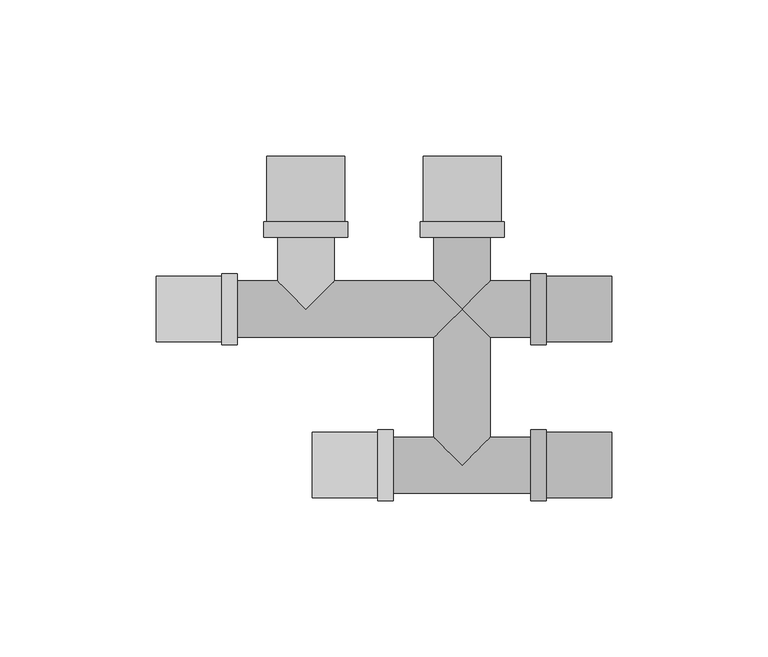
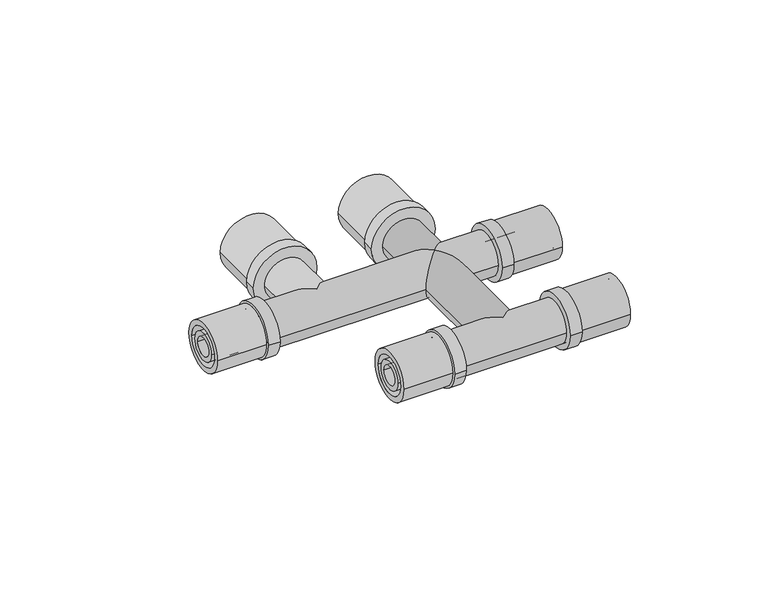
"""IFC4 building model written with IfcOpenShell, lengths in millimetres: pipe fitting geometry, PIF_Tigris_Crossfitting_Wavin_(multiport) : Tigris M5 Crossfitting 16x20x16."""

from ifc_helpers import new_model, si_unit, point, frame, frame_2d, origin, origin_2d, place, context, project, spatial, circle_curve, ellipse_curve, trimmed, segment, composite_curve, outline, extrude, source, transform, mapped, element, save
from ifc_brep_helpers import plane_surface, cylinder_surface, advanced_brep


def pipe_fitting_fed8c86e(model_context):
    return source(origin(), model_context, "Body", "SolidModel", [
        extrude(outline(composite_curve([segment(trimmed(circle_curve(frame_2d((-50.0, 0.0)), 11.35), [point((-61.35, 0.0))], [point((-38.65, 0.0))], False, "CARTESIAN"), True, "CONTINUOUS"), segment(trimmed(circle_curve(frame_2d((-50.0, 0.0)), 11.35), [point((-38.65, 0.0))], [point((-61.35, 0.0))], False, "CARTESIAN"), True, "CONTINUOUS")], self_intersect=False)), frame((-27.0, 0.0, 0.0), z_axis=(1.0, 0.0, 0.0), x_axis=(0.0, 1.0, 0.0)), (0.0, 0.0, 1.0), 5.0),
        extrude(outline(composite_curve([segment(trimmed(circle_curve(frame_2d((-50.0, 0.0)), 10.5), [point((-60.5, 0.0))], [point((-39.5, 0.0))], False, "CARTESIAN"), True, "CONTINUOUS"), segment(trimmed(circle_curve(frame_2d((-50.0, 0.0)), 10.5), [point((-39.5, 0.0))], [point((-60.5, 0.0))], False, "CARTESIAN"), True, "CONTINUOUS")], self_intersect=False), holes=[composite_curve([segment(trimmed(circle_curve(frame_2d((-50.0, 0.0)), 8.2), [point((-58.2, 0.0))], [point((-41.8, 0.0))], True, "CARTESIAN"), True, "CONTINUOUS"), segment(trimmed(circle_curve(frame_2d((-50.0, 0.0)), 8.2), [point((-41.8, 0.0))], [point((-58.2, 0.0))], True, "CARTESIAN"), True, "CONTINUOUS")], self_intersect=False)]), frame((-48.0, 0.0, 0.0), z_axis=(1.0, 0.0, 0.0), x_axis=(0.0, 1.0, 0.0)), (0.0, 0.0, 1.0), 21.0),
        extrude(outline(composite_curve([segment(trimmed(circle_curve(frame_2d((-50.0, 0.0)), 6.1), [point((-56.1, 0.0))], [point((-43.9, 0.0))], False, "CARTESIAN"), True, "CONTINUOUS"), segment(trimmed(circle_curve(frame_2d((-50.0, 0.0)), 6.1), [point((-43.9, 0.0))], [point((-56.1, 0.0))], False, "CARTESIAN"), True, "CONTINUOUS")], self_intersect=False), holes=[composite_curve([segment(trimmed(circle_curve(frame_2d((-50.0, 0.0)), 4.0), [point((-54.0, 0.0))], [point((-46.0, 0.0))], True, "CARTESIAN"), True, "CONTINUOUS"), segment(trimmed(circle_curve(frame_2d((-50.0, 0.0)), 4.0), [point((-46.0, 0.0))], [point((-54.0, 0.0))], True, "CARTESIAN"), True, "CONTINUOUS")], self_intersect=False)]), frame((-48.0, 0.0, 0.0), z_axis=(1.0, 0.0, 0.0), x_axis=(0.0, 1.0, 0.0)), (0.0, 0.0, 1.0), 25.0),
        extrude(outline(composite_curve([segment(trimmed(circle_curve(frame_2d((-50.0, 0.0)), 11.35), [point((-38.65, 0.0))], [point((-61.35, 0.0))], False, "CARTESIAN"), True, "CONTINUOUS"), segment(trimmed(circle_curve(frame_2d((-50.0, 0.0)), 11.35), [point((-61.35, 0.0))], [point((-38.65, 0.0))], False, "CARTESIAN"), True, "CONTINUOUS")], self_intersect=False)), frame((22.0, 0.0, 0.0), z_axis=(1.0, 0.0, 0.0), x_axis=(0.0, 1.0, 0.0)), (0.0, 0.0, 1.0), 5.0),
        extrude(outline(composite_curve([segment(trimmed(circle_curve(frame_2d((-50.0, 0.0)), 10.5), [point((-39.5, 0.0))], [point((-60.5, 0.0))], False, "CARTESIAN"), True, "CONTINUOUS"), segment(trimmed(circle_curve(frame_2d((-50.0, 0.0)), 10.5), [point((-60.5, 0.0))], [point((-39.5, 0.0))], False, "CARTESIAN"), True, "CONTINUOUS")], self_intersect=False), holes=[composite_curve([segment(trimmed(circle_curve(frame_2d((-50.0, 0.0)), 8.2), [point((-41.8, 0.0))], [point((-58.2, 0.0))], True, "CARTESIAN"), True, "CONTINUOUS"), segment(trimmed(circle_curve(frame_2d((-50.0, 0.0)), 8.2), [point((-58.2, 0.0))], [point((-41.8, 0.0))], True, "CARTESIAN"), True, "CONTINUOUS")], self_intersect=False)]), frame((27.0, 0.0, 0.0), z_axis=(1.0, 0.0, 0.0), x_axis=(0.0, 1.0, 0.0)), (0.0, 0.0, 1.0), 21.0),
        extrude(outline(composite_curve([segment(trimmed(circle_curve(frame_2d((-50.0, 0.0)), 6.1), [point((-43.9, 0.0))], [point((-56.1, 0.0))], False, "CARTESIAN"), True, "CONTINUOUS"), segment(trimmed(circle_curve(frame_2d((-50.0, 0.0)), 6.1), [point((-56.1, 0.0))], [point((-43.9, 0.0))], False, "CARTESIAN"), True, "CONTINUOUS")], self_intersect=False), holes=[composite_curve([segment(trimmed(circle_curve(frame_2d((-50.0, 0.0)), 4.0), [point((-46.0, 0.0))], [point((-54.0, 0.0))], True, "CARTESIAN"), True, "CONTINUOUS"), segment(trimmed(circle_curve(frame_2d((-50.0, 0.0)), 4.0), [point((-54.0, 0.0))], [point((-46.0, 0.0))], True, "CARTESIAN"), True, "CONTINUOUS")], self_intersect=False)]), frame((23.0, 0.0, 0.0), z_axis=(1.0, 0.0, 0.0), x_axis=(0.0, 1.0, 0.0)), (0.0, 0.0, 1.0), 25.0),
        extrude(outline(composite_curve([segment(trimmed(circle_curve(origin_2d(), 11.35), [point((11.35, 0.0))], [point((-11.35, 0.0))], False, "CARTESIAN"), True, "CONTINUOUS"), segment(trimmed(circle_curve(origin_2d(), 11.35), [point((-11.35, 0.0))], [point((11.35, 0.0))], False, "CARTESIAN"), True, "CONTINUOUS")], self_intersect=False)), frame((22.0, 0.0, 0.0), z_axis=(1.0, 0.0, 0.0), x_axis=(0.0, 1.0, 0.0)), (0.0, 0.0, 1.0), 5.0),
        extrude(outline(composite_curve([segment(trimmed(circle_curve(origin_2d(), 10.5), [point((10.5, 0.0))], [point((-10.5, 0.0))], False, "CARTESIAN"), True, "CONTINUOUS"), segment(trimmed(circle_curve(origin_2d(), 10.5), [point((-10.5, 0.0))], [point((10.5, 0.0))], False, "CARTESIAN"), True, "CONTINUOUS")], self_intersect=False), holes=[composite_curve([segment(trimmed(circle_curve(origin_2d(), 8.2), [point((8.2, 0.0))], [point((-8.2, 0.0))], True, "CARTESIAN"), True, "CONTINUOUS"), segment(trimmed(circle_curve(origin_2d(), 8.2), [point((-8.2, 0.0))], [point((8.2, 0.0))], True, "CARTESIAN"), True, "CONTINUOUS")], self_intersect=False)]), frame((27.0, 0.0, 0.0), z_axis=(1.0, 0.0, 0.0), x_axis=(0.0, 1.0, 0.0)), (0.0, 0.0, 1.0), 21.0),
        extrude(outline(composite_curve([segment(trimmed(circle_curve(origin_2d(), 6.1), [point((6.1, 0.0))], [point((-6.1, 0.0))], False, "CARTESIAN"), True, "CONTINUOUS"), segment(trimmed(circle_curve(origin_2d(), 6.1), [point((-6.1, 0.0))], [point((6.1, 0.0))], False, "CARTESIAN"), True, "CONTINUOUS")], self_intersect=False), holes=[composite_curve([segment(trimmed(circle_curve(origin_2d(), 4.0), [point((4.0, 0.0))], [point((-4.0, 0.0))], True, "CARTESIAN"), True, "CONTINUOUS"), segment(trimmed(circle_curve(origin_2d(), 4.0), [point((-4.0, 0.0))], [point((4.0, 0.0))], True, "CARTESIAN"), True, "CONTINUOUS")], self_intersect=False)]), frame((23.0, 0.0, 0.0), z_axis=(1.0, 0.0, 0.0), x_axis=(0.0, 1.0, 0.0)), (0.0, 0.0, 1.0), 25.0),
        extrude(outline(composite_curve([segment(trimmed(circle_curve(origin_2d(), 13.45), [point((0.0, -13.45))], [point((0.0, 13.45))], False, "CARTESIAN"), True, "CONTINUOUS"), segment(trimmed(circle_curve(origin_2d(), 13.45), [point((0.0, 13.45))], [point((0.0, -13.45))], False, "CARTESIAN"), True, "CONTINUOUS")], self_intersect=False)), frame((0.0, 23.0, 0.0), z_axis=(0.0, 1.0, 0.0), x_axis=(0.0, 0.0, 1.0)), (0.0, 0.0, 1.0), 5.0),
        extrude(outline(composite_curve([segment(trimmed(circle_curve(origin_2d(), 12.5), [point((0.0, -12.5))], [point((0.0, 12.5))], False, "CARTESIAN"), True, "CONTINUOUS"), segment(trimmed(circle_curve(origin_2d(), 12.5), [point((0.0, 12.5))], [point((0.0, -12.5))], False, "CARTESIAN"), True, "CONTINUOUS")], self_intersect=False), holes=[composite_curve([segment(trimmed(circle_curve(origin_2d(), 10.2), [point((0.0, -10.2))], [point((0.0, 10.2))], True, "CARTESIAN"), True, "CONTINUOUS"), segment(trimmed(circle_curve(origin_2d(), 10.2), [point((0.0, 10.2))], [point((0.0, -10.2))], True, "CARTESIAN"), True, "CONTINUOUS")], self_intersect=False)]), frame((0.0, 28.0, 0.0), z_axis=(0.0, 1.0, 0.0), x_axis=(0.0, 0.0, 1.0)), (0.0, 0.0, 1.0), 21.0),
        extrude(outline(composite_curve([segment(trimmed(circle_curve(origin_2d(), 7.9), [point((0.0, -7.9))], [point((0.0, 7.9))], False, "CARTESIAN"), True, "CONTINUOUS"), segment(trimmed(circle_curve(origin_2d(), 7.9), [point((0.0, 7.9))], [point((0.0, -7.9))], False, "CARTESIAN"), True, "CONTINUOUS")], self_intersect=False), holes=[composite_curve([segment(trimmed(circle_curve(origin_2d(), 5.6), [point((0.0, -5.6))], [point((0.0, 5.6))], True, "CARTESIAN"), True, "CONTINUOUS"), segment(trimmed(circle_curve(origin_2d(), 5.6), [point((0.0, 5.6))], [point((0.0, -5.6))], True, "CARTESIAN"), True, "CONTINUOUS")], self_intersect=False)]), frame((0.0, 23.0, 0.0), z_axis=(0.0, 1.0, 0.0), x_axis=(0.0, 0.0, 1.0)), (0.0, 0.0, 1.0), 26.0),
        extrude(outline(composite_curve([segment(trimmed(circle_curve(frame_2d((0.0, -50.0)), 13.45), [point((0.0, -63.45))], [point((0.0, -36.55))], False, "CARTESIAN"), True, "CONTINUOUS"), segment(trimmed(circle_curve(frame_2d((0.0, -50.0)), 13.45), [point((0.0, -36.55))], [point((0.0, -63.45))], False, "CARTESIAN"), True, "CONTINUOUS")], self_intersect=False)), frame((0.0, 23.0, 0.0), z_axis=(0.0, 1.0, 0.0), x_axis=(0.0, 0.0, 1.0)), (0.0, 0.0, 1.0), 5.0),
        extrude(outline(composite_curve([segment(trimmed(circle_curve(frame_2d((0.0, -50.0)), 12.5), [point((0.0, -62.5))], [point((0.0, -37.5))], False, "CARTESIAN"), True, "CONTINUOUS"), segment(trimmed(circle_curve(frame_2d((0.0, -50.0)), 12.5), [point((0.0, -37.5))], [point((0.0, -62.5))], False, "CARTESIAN"), True, "CONTINUOUS")], self_intersect=False), holes=[composite_curve([segment(trimmed(circle_curve(frame_2d((0.0, -50.0)), 10.2), [point((0.0, -60.2))], [point((0.0, -39.8))], True, "CARTESIAN"), True, "CONTINUOUS"), segment(trimmed(circle_curve(frame_2d((0.0, -50.0)), 10.2), [point((0.0, -39.8))], [point((0.0, -60.2))], True, "CARTESIAN"), True, "CONTINUOUS")], self_intersect=False)]), frame((0.0, 28.0, 0.0), z_axis=(0.0, 1.0, 0.0), x_axis=(0.0, 0.0, 1.0)), (0.0, 0.0, 1.0), 21.0),
        extrude(outline(composite_curve([segment(trimmed(circle_curve(frame_2d((0.0, -50.0)), 7.9), [point((0.0, -57.9))], [point((0.0, -42.1))], False, "CARTESIAN"), True, "CONTINUOUS"), segment(trimmed(circle_curve(frame_2d((0.0, -50.0)), 7.9), [point((0.0, -42.1))], [point((0.0, -57.9))], False, "CARTESIAN"), True, "CONTINUOUS")], self_intersect=False), holes=[composite_curve([segment(trimmed(circle_curve(frame_2d((0.0, -50.0)), 5.6), [point((0.0, -55.6))], [point((0.0, -44.4))], True, "CARTESIAN"), True, "CONTINUOUS"), segment(trimmed(circle_curve(frame_2d((0.0, -50.0)), 5.6), [point((0.0, -44.4))], [point((0.0, -55.6))], True, "CARTESIAN"), True, "CONTINUOUS")], self_intersect=False)]), frame((0.0, 23.0, 0.0), z_axis=(0.0, 1.0, 0.0), x_axis=(0.0, 0.0, 1.0)), (0.0, 0.0, 1.0), 26.0),
        extrude(outline(composite_curve([segment(trimmed(circle_curve(origin_2d(), 11.35), [point((-11.35, 0.0))], [point((11.35, 0.0))], False, "CARTESIAN"), True, "CONTINUOUS"), segment(trimmed(circle_curve(origin_2d(), 11.35), [point((11.35, 0.0))], [point((-11.35, 0.0))], False, "CARTESIAN"), True, "CONTINUOUS")], self_intersect=False)), frame((-77.0, 0.0, 0.0), z_axis=(1.0, 0.0, 0.0), x_axis=(0.0, 1.0, 0.0)), (0.0, 0.0, 1.0), 5.0),
        extrude(outline(composite_curve([segment(trimmed(circle_curve(origin_2d(), 10.5), [point((-10.5, 0.0))], [point((10.5, 0.0))], False, "CARTESIAN"), True, "CONTINUOUS"), segment(trimmed(circle_curve(origin_2d(), 10.5), [point((10.5, 0.0))], [point((-10.5, 0.0))], False, "CARTESIAN"), True, "CONTINUOUS")], self_intersect=False), holes=[composite_curve([segment(trimmed(circle_curve(origin_2d(), 8.2), [point((-8.2, 0.0))], [point((8.2, 0.0))], True, "CARTESIAN"), True, "CONTINUOUS"), segment(trimmed(circle_curve(origin_2d(), 8.2), [point((8.2, 0.0))], [point((-8.2, 0.0))], True, "CARTESIAN"), True, "CONTINUOUS")], self_intersect=False)]), frame((-98.0, 0.0, 0.0), z_axis=(1.0, 0.0, 0.0), x_axis=(0.0, 1.0, 0.0)), (0.0, 0.0, 1.0), 21.0),
        extrude(outline(composite_curve([segment(trimmed(circle_curve(origin_2d(), 6.1), [point((-6.1, 0.0))], [point((6.1, 0.0))], False, "CARTESIAN"), True, "CONTINUOUS"), segment(trimmed(circle_curve(origin_2d(), 6.1), [point((6.1, 0.0))], [point((-6.1, 0.0))], False, "CARTESIAN"), True, "CONTINUOUS")], self_intersect=False), holes=[composite_curve([segment(trimmed(circle_curve(origin_2d(), 4.0), [point((-4.0, 0.0))], [point((4.0, 0.0))], True, "CARTESIAN"), True, "CONTINUOUS"), segment(trimmed(circle_curve(origin_2d(), 4.0), [point((4.0, 0.0))], [point((-4.0, 0.0))], True, "CARTESIAN"), True, "CONTINUOUS")], self_intersect=False)]), frame((-98.0, 0.0, 0.0), z_axis=(1.0, 0.0, 0.0), x_axis=(0.0, 1.0, 0.0)), (0.0, 0.0, 1.0), 25.0),
        advanced_brep(
        [(-41.0, 23.0, 0.0), (-59.0, 23.0, 0.0), (-59.0, 9.0, 0.0), (-50.0, 0.0, 9.0), (-41.0, 9.0, 0.0), (-50.0, 0.0, -9.0), (-73.0, -9.0, 0.0), (-73.0, 9.0, 0.0), (23.0, -9.0, 0.0), (23.0, 9.0, 0.0), (-9.0, -9.0, 0.0), (0.0, 0.0, 9.0), (-9.0, 9.0, 0.0), (9.0, 9.0, 0.0), (9.0, -9.0, 0.0), (0.0, 0.0, -9.0), (-9.0, 23.0, 0.0), (9.0, 23.0, 0.0), (-9.0, -41.0, 0.0), (0.0, -50.0, 9.0), (9.0, -41.0, 0.0), (0.0, -50.0, -9.0), (-23.0, -59.0, 0.0), (-23.0, -41.0, 0.0), (23.0, -59.0, 0.0), (23.0, -41.0, 0.0)],
        [
            (0, 1, circle_curve(frame((-50.0, 23.0, 0.0), z_axis=(0.0, 1.0, 0.0), x_axis=(-1.0, 0.0, 0.0)), 9.0)),
            (1, 0, circle_curve(frame((-50.0, 23.0, 0.0), z_axis=(0.0, 1.0, 0.0), x_axis=(-1.0, 0.0, 0.0)), 9.0)),
            (1, 2),
            (2, 3, ellipse_curve(frame((-50.0, 0.0, 0.0), z_axis=(0.7071067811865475, 0.7071067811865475, 0.0), x_axis=(0.7071067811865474, -0.7071067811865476, 0.0)), 12.7279221, 9.0)),
            (3, 4, ellipse_curve(frame((-50.0, 0.0, 0.0), z_axis=(-0.7071067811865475, 0.7071067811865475, 0.0), x_axis=(-0.7071067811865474, -0.7071067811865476, 0.0)), 12.7279221, 9.0)),
            (4, 0),
            (4, 5, ellipse_curve(frame((-50.0, 0.0, 0.0), z_axis=(-0.7071067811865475, 0.7071067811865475, 0.0), x_axis=(-0.7071067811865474, -0.7071067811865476, 0.0)), 12.7279221, 9.0)),
            (5, 2, ellipse_curve(frame((-50.0, 0.0, 0.0), z_axis=(0.7071067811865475, 0.7071067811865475, 0.0), x_axis=(0.7071067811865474, -0.7071067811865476, 0.0)), 12.7279221, 9.0)),
            (6, 7, circle_curve(frame((-73.0, 0.0, 0.0), z_axis=(-1.0, 0.0, 0.0), x_axis=(0.0, 1.0, 0.0)), 9.0)),
            (7, 6, circle_curve(frame((-73.0, 0.0, 0.0), z_axis=(-1.0, 0.0, 0.0), x_axis=(0.0, 1.0, 0.0)), 9.0)),
            (8, 9, circle_curve(frame((23.0, 0.0, 0.0), z_axis=(1.0, 0.0, 0.0), x_axis=(0.0, 1.0, 0.0)), 9.0)),
            (9, 8, circle_curve(frame((23.0, 0.0, 0.0), z_axis=(1.0, 0.0, 0.0), x_axis=(0.0, 1.0, 0.0)), 9.0)),
            (6, 10),
            (10, 11, ellipse_curve(frame((0.0, 0.0, 0.0), z_axis=(-0.7071067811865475, 0.7071067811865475, 0.0), x_axis=(-0.7071067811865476, -0.7071067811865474, 0.0)), 12.7279221, 9.0)),
            (11, 12, ellipse_curve(frame((0.0, 0.0, 0.0), z_axis=(-0.7071067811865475, -0.7071067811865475, 0.0), x_axis=(-0.7071067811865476, 0.7071067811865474, 0.0)), 12.7279221, 9.0)),
            (12, 4),
            (2, 7),
            (9, 13),
            (13, 11, ellipse_curve(frame((0.0, 0.0, 0.0), z_axis=(0.7071067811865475, -0.7071067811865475, 0.0), x_axis=(-0.7071067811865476, -0.7071067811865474, 0.0)), 12.7279221, 9.0)),
            (11, 14, ellipse_curve(frame((0.0, 0.0, 0.0), z_axis=(0.7071067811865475, 0.7071067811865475, 0.0), x_axis=(-0.7071067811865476, 0.7071067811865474, 0.0)), 12.7279221, 9.0)),
            (14, 8),
            (12, 15, ellipse_curve(frame((0.0, 0.0, 0.0), z_axis=(-0.7071067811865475, -0.7071067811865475, 0.0), x_axis=(-0.7071067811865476, 0.7071067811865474, 0.0)), 12.7279221, 9.0)),
            (15, 10, ellipse_curve(frame((0.0, 0.0, 0.0), z_axis=(-0.7071067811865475, 0.7071067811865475, 0.0), x_axis=(-0.7071067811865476, -0.7071067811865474, 0.0)), 12.7279221, 9.0)),
            (14, 15, ellipse_curve(frame((0.0, 0.0, 0.0), z_axis=(0.7071067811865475, 0.7071067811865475, 0.0), x_axis=(-0.7071067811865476, 0.7071067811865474, 0.0)), 12.7279221, 9.0)),
            (15, 13, ellipse_curve(frame((0.0, 0.0, 0.0), z_axis=(0.7071067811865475, -0.7071067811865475, 0.0), x_axis=(-0.7071067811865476, -0.7071067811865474, 0.0)), 12.7279221, 9.0)),
            (16, 17, circle_curve(frame((0.0, 23.0, 0.0), z_axis=(0.0, 1.0, 0.0), x_axis=(1.0, 0.0, 0.0)), 9.0)),
            (17, 16, circle_curve(frame((0.0, 23.0, 0.0), z_axis=(0.0, 1.0, 0.0), x_axis=(1.0, 0.0, 0.0)), 9.0)),
            (10, 18),
            (18, 19, ellipse_curve(frame((0.0, -50.0, 0.0), z_axis=(0.7071067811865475, 0.7071067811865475, 0.0), x_axis=(-0.7071067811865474, 0.7071067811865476, 0.0)), 12.7279221, 9.0)),
            (19, 20, ellipse_curve(frame((0.0, -50.0, 0.0), z_axis=(-0.7071067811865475, 0.7071067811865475, 0.0), x_axis=(0.7071067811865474, 0.7071067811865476, 0.0)), 12.7279221, 9.0)),
            (20, 14),
            (16, 12),
            (13, 17),
            (20, 21, ellipse_curve(frame((0.0, -50.0, 0.0), z_axis=(-0.7071067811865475, 0.7071067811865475, 0.0), x_axis=(0.7071067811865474, 0.7071067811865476, 0.0)), 12.7279221, 9.0)),
            (21, 18, ellipse_curve(frame((0.0, -50.0, 0.0), z_axis=(0.7071067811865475, 0.7071067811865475, 0.0), x_axis=(-0.7071067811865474, 0.7071067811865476, 0.0)), 12.7279221, 9.0)),
            (22, 23, circle_curve(frame((-23.0, -50.0, 0.0), z_axis=(-1.0, 0.0, 0.0), x_axis=(0.0, 1.0, 0.0)), 9.0)),
            (23, 22, circle_curve(frame((-23.0, -50.0, 0.0), z_axis=(-1.0, 0.0, 0.0), x_axis=(0.0, 1.0, 0.0)), 9.0)),
            (24, 25, circle_curve(frame((23.0, -50.0, 0.0), z_axis=(1.0, 0.0, 0.0), x_axis=(0.0, 1.0, 0.0)), 9.0)),
            (25, 24, circle_curve(frame((23.0, -50.0, 0.0), z_axis=(1.0, 0.0, 0.0), x_axis=(0.0, 1.0, 0.0)), 9.0)),
            (22, 24),
            (25, 20),
            (18, 23),
        ],
        [
            plane_surface(frame((-50.0, 23.0, 0.0), z_axis=(0.0, 1.0, 0.0), x_axis=(0.0, 0.0, 1.0))),
            cylinder_surface(frame((-50.0, 0.0, 0.0), z_axis=(0.0, -1.0, 0.0), x_axis=(-1.0, 0.0, 0.0)), 9.0),
            plane_surface(frame((-73.0, 0.0, 0.0), z_axis=(-1.0, 0.0, 0.0), x_axis=(0.0, 0.0, 1.0))),
            plane_surface(frame((23.0, 0.0, 0.0), z_axis=(1.0, 0.0, 0.0), x_axis=(0.0, 0.0, 1.0))),
            cylinder_surface(frame((-73.0, 0.0, 0.0), z_axis=(-1.0, 0.0, 0.0), x_axis=(0.0, 1.0, 0.0)), 9.0),
            plane_surface(frame((0.0, 23.0, 0.0), z_axis=(0.0, 1.0, 0.0), x_axis=(0.0, 0.0, 1.0))),
            cylinder_surface(frame((0.0, 23.0, 0.0), z_axis=(0.0, 1.0, 0.0), x_axis=(1.0, 0.0, 0.0)), 9.0),
            plane_surface(frame((-23.0, -50.0, 0.0), z_axis=(-1.0, 0.0, 0.0), x_axis=(0.0, 0.0, 1.0))),
            plane_surface(frame((23.0, -50.0, 0.0), z_axis=(1.0, 0.0, 0.0), x_axis=(0.0, 0.0, 1.0))),
            cylinder_surface(frame((-23.0, -50.0, 0.0), z_axis=(-1.0, 0.0, 0.0), x_axis=(0.0, 1.0, 0.0)), 9.0),
        ],
        [
            (0, [[1, 2]]),
            (1, [[-2, 3, 4, 5, 6]]),
            (1, [[-1, -6, 7, 8, -3]]),
            (2, [[9, 10]]),
            (3, [[11, 12]]),
            (4, [[-9, 13, 14, 15, 16, -5, -4, 17]]),
            (4, [[-12, 18, 19, 20, 21]]),
            (4, [[-10, -17, -8, -7, -16, 22, 23, -13]]),
            (4, [[-11, -21, 24, 25, -18]]),
            (5, [[26, 27]]),
            (6, [[-20, -14, 28, 29, 30, 31]]),
            (6, [[-26, 32, -15, -19, 33]]),
            (6, [[-24, -31, 34, 35, -28, -23]]),
            (6, [[-27, -33, -25, -22, -32]]),
            (7, [[36, 37]]),
            (8, [[38, 39]]),
            (9, [[-36, 40, -39, 41, -30, -29, 42]]),
            (9, [[-37, -42, -35, -34, -41, -38, -40]]),
        ],
    ),
    ])


if __name__ == "__main__":
    model = new_model("IFC4")
    model_context = context("Model", 3, world=origin())
    ifc_project = project(units=[si_unit("LENGTHUNIT", "METRE", prefix="MILLI")], contexts=[model_context])
    site = spatial("IfcSite", under=ifc_project)
    building = spatial("IfcBuilding", under=site)
    placement = place(None, origin())
    pipe_fitting_shape = pipe_fitting_fed8c86e(model_context)
    element("IfcPipeFitting", 1, ObjectType="PIF_Tigris_Crossfitting_Wavin_(multiport) : Tigris M5 Crossfitting 16x20x16", at=placement, inside=building, context=model_context, shape_type="MappedRepresentation", body=[
        mapped(pipe_fitting_shape, transform((0.0, 0.0, 0.0), x_axis=(1.0, 0.0, 0.0), y_axis=(0.0, 1.0, 0.0), z_axis=(0.0, 0.0, 1.0))),
    ])
    save(model, "model.ifc")
